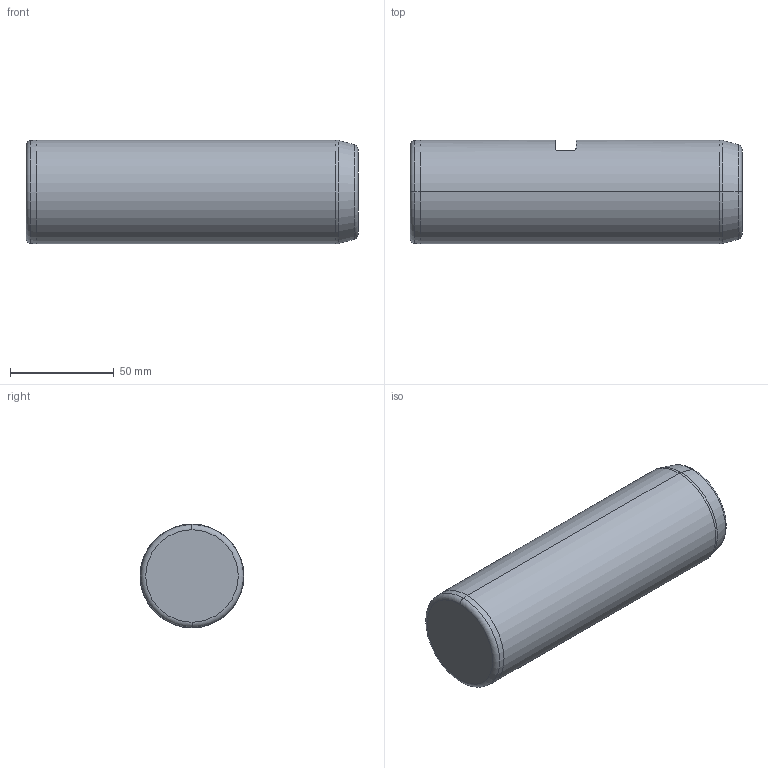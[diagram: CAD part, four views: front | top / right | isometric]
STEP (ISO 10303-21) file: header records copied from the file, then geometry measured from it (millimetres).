
FILE_DESCRIPTION (( 'STEP AP214' ), '1' );
FILE_NAME ('SP202-08-50-160.STEP', '2020-11-03T14:18:34', ( '' ), ( '' ), 'SwSTEP 2.0', 'SolidWorks 2018', '' );
FILE_SCHEMA (( 'AUTOMOTIVE_DESIGN' ));
Length unit declared in the file: millimetre
Products named in the file (1): SP202-08-50-160
Bounding box: 160 x 50 x 50 mm (x, y, z)
Volume: 306419.2 mm3; surface area: 29756.7 mm2
Topology: 1 solids, 1 shells, 26 faces, 54 edges, 31 vertices
Faces by surface type: cylinder 8, cone 6, torus 6, plane 6
Entity records: 744 total; most frequent: CARTESIAN_POINT 150, DIRECTION 132, ORIENTED_EDGE 104, AXIS2_PLACEMENT_3D 57, EDGE_CURVE 52, VERTEX_POINT 31, CIRCLE 30, EDGE_LOOP 29
